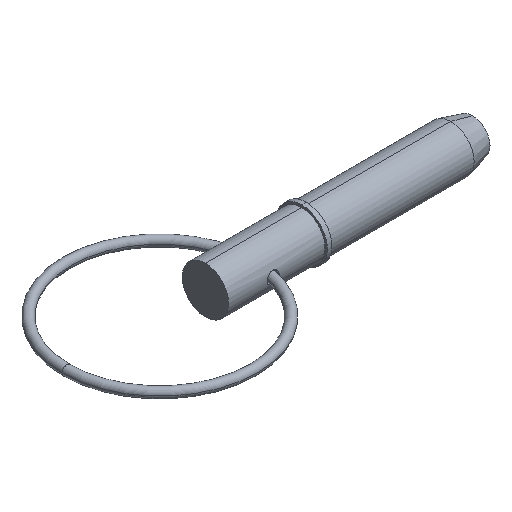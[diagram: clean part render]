
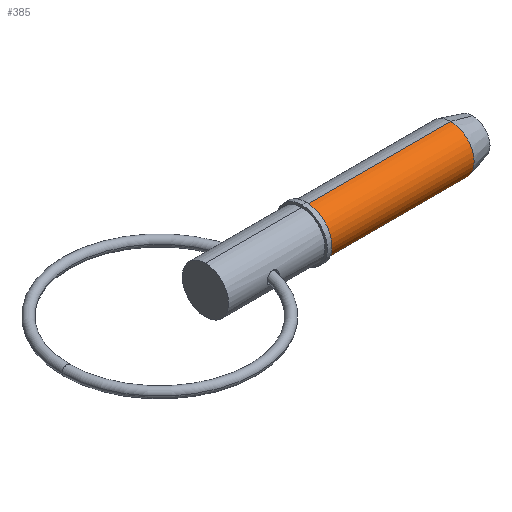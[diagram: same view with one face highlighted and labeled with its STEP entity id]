
A CAD part, isometric view. The second image highlights one B-rep face of the part: STEP entity #385.
In plain terms, the highlighted cylindrical face has radius 5.555 mm (diameter 11.11 mm), a partial arc.
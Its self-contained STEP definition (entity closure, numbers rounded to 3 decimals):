
#15 = CARTESIAN_POINT ( 'NONE',  ( 0., 0., 5.555 ) ) ;
#57 = CARTESIAN_POINT ( 'NONE',  ( 58.617, 0., 5.555 ) ) ;
#68 = CARTESIAN_POINT ( 'NONE',  ( 24.13, 0., -5.555 ) ) ;
#87 = DIRECTION ( 'NONE',  ( 1., 0., 0. ) ) ;
#95 = EDGE_CURVE ( 'NONE', #1001, #161, #1033, .T. ) ;
#119 = CIRCLE ( 'NONE', #832, 5.555 ) ;
#120 = VERTEX_POINT ( 'NONE', #475 ) ;
#161 = VERTEX_POINT ( 'NONE', #483 ) ;
#187 = CYLINDRICAL_SURFACE ( 'NONE', #868, 5.555 ) ;
#193 = DIRECTION ( 'NONE',  ( 0., 0., -1. ) ) ;
#281 = DIRECTION ( 'NONE',  ( 0., 0., -1. ) ) ;
#282 = EDGE_CURVE ( 'NONE', #120, #1001, #485, .T. ) ;
#289 = ORIENTED_EDGE ( 'NONE', *, *, #95, .T. ) ;
#361 = EDGE_CURVE ( 'NONE', #120, #903, #443, .T. ) ;
#385 = ADVANCED_FACE ( 'NONE', ( #989 ), #187, .T. ) ;
#404 = VECTOR ( 'NONE', #87, 1000. ) ;
#405 = DIRECTION ( 'NONE',  ( 1., 0., 0. ) ) ;
#423 = DIRECTION ( 'NONE',  ( 1., 0., 0. ) ) ;
#443 = LINE ( 'NONE', #15, #851 ) ;
#469 = AXIS2_PLACEMENT_3D ( 'NONE', #906, #895, #281 ) ;
#475 = CARTESIAN_POINT ( 'NONE',  ( 24.13, 0., 5.555 ) ) ;
#483 = CARTESIAN_POINT ( 'NONE',  ( 58.617, 0., -5.555 ) ) ;
#485 = CIRCLE ( 'NONE', #469, 5.555 ) ;
#505 = CARTESIAN_POINT ( 'NONE',  ( 0., 0., 0. ) ) ;
#555 = CARTESIAN_POINT ( 'NONE',  ( 0., 0., -5.555 ) ) ;
#585 = ORIENTED_EDGE ( 'NONE', *, *, #666, .F. ) ;
#642 = EDGE_LOOP ( 'NONE', ( #897, #1017, #289, #585 ) ) ;
#666 = EDGE_CURVE ( 'NONE', #903, #161, #119, .T. ) ;
#747 = DIRECTION ( 'NONE',  ( 1., 0., 0. ) ) ;
#823 = DIRECTION ( 'NONE',  ( 0., 0., -1. ) ) ;
#832 = AXIS2_PLACEMENT_3D ( 'NONE', #878, #405, #823 ) ;
#851 = VECTOR ( 'NONE', #423, 1000. ) ;
#868 = AXIS2_PLACEMENT_3D ( 'NONE', #505, #747, #193 ) ;
#878 = CARTESIAN_POINT ( 'NONE',  ( 58.617, 0., 0. ) ) ;
#895 = DIRECTION ( 'NONE',  ( 1., 0., 0. ) ) ;
#897 = ORIENTED_EDGE ( 'NONE', *, *, #361, .F. ) ;
#903 = VERTEX_POINT ( 'NONE', #57 ) ;
#906 = CARTESIAN_POINT ( 'NONE',  ( 24.13, 0., 0. ) ) ;
#989 = FACE_OUTER_BOUND ( 'NONE', #642, .T. ) ;
#1001 = VERTEX_POINT ( 'NONE', #68 ) ;
#1017 = ORIENTED_EDGE ( 'NONE', *, *, #282, .T. ) ;
#1033 = LINE ( 'NONE', #555, #404 ) ;
